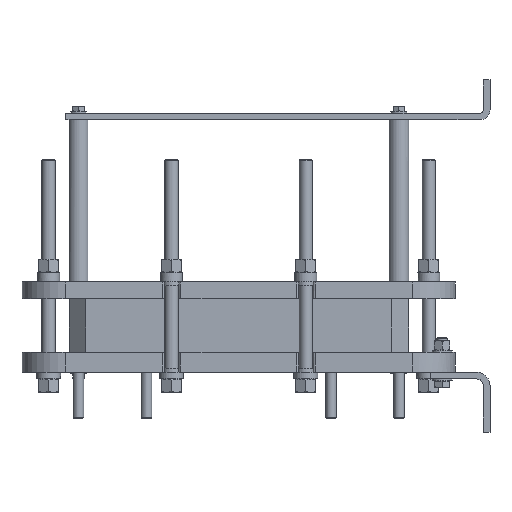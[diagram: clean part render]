
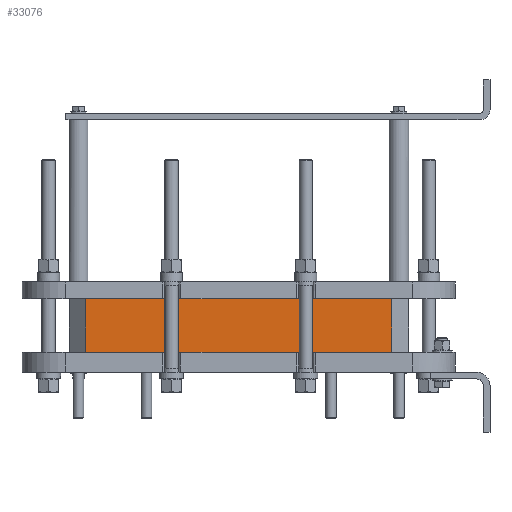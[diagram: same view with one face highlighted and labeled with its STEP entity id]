
A CAD part, left-side view. The second image highlights one B-rep face of the part: STEP entity #33076.
In plain terms, the highlighted planar face has unit normal (-1, 0, 0).
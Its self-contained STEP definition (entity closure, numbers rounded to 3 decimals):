
#30011=CARTESIAN_POINT('',(-166.5,-230.0,0.0));
#30012=VERTEX_POINT('',#30011);
#30019=CARTESIAN_POINT('',(-166.5,230.0,0.0));
#30020=VERTEX_POINT('',#30019);
#30021=CARTESIAN_POINT('',(-166.5,-230.0,0.0));
#30022=DIRECTION('',(0.0,1.0,0.0));
#30023=VECTOR('',#30022,460.0);
#30024=LINE('',#30021,#30023);
#30025=EDGE_CURVE('',#30012,#30020,#30024,.T.);
#31020=CARTESIAN_POINT('',(-166.5,230.0,81.0));
#31021=VERTEX_POINT('',#31020);
#31028=CARTESIAN_POINT('',(-166.5,-230.0,81.0));
#31029=VERTEX_POINT('',#31028);
#31030=CARTESIAN_POINT('',(-166.5,-230.0,81.0));
#31031=DIRECTION('',(0.0,1.0,0.0));
#31032=VECTOR('',#31031,460.0);
#31033=LINE('',#31030,#31032);
#31034=EDGE_CURVE('',#31029,#31021,#31033,.T.);
#33044=CARTESIAN_POINT('',(-166.5,-230.0,0.0));
#33045=DIRECTION('',(0.0,0.0,1.0));
#33046=VECTOR('',#33045,81.0);
#33047=LINE('',#33044,#33046);
#33048=EDGE_CURVE('',#30012,#31029,#33047,.T.);
#33060=CARTESIAN_POINT('',(-166.5,0.0,0.0));
#33061=DIRECTION('',(-1.0,0.0,0.0));
#33062=DIRECTION('',(0.0,0.0,1.0));
#33063=AXIS2_PLACEMENT_3D('',#33060,#33061,#33062);
#33064=PLANE('',#33063);
#33065=ORIENTED_EDGE('',*,*,#31034,.T.);
#33066=CARTESIAN_POINT('',(-166.5,230.0,0.0));
#33067=DIRECTION('',(0.0,0.0,1.0));
#33068=VECTOR('',#33067,81.0);
#33069=LINE('',#33066,#33068);
#33070=EDGE_CURVE('',#30020,#31021,#33069,.T.);
#33071=ORIENTED_EDGE('',*,*,#33070,.F.);
#33072=ORIENTED_EDGE('',*,*,#30025,.F.);
#33073=ORIENTED_EDGE('',*,*,#33048,.T.);
#33074=EDGE_LOOP('',(#33065,#33071,#33072,#33073));
#33075=FACE_OUTER_BOUND('',#33074,.T.);
#33076=ADVANCED_FACE('',(#33075),#33064,.T.);
